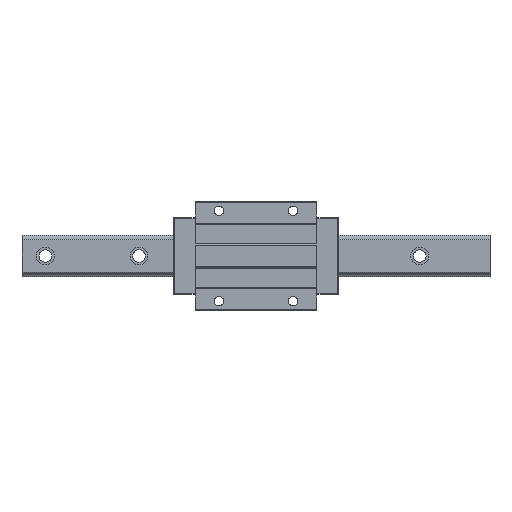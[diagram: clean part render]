
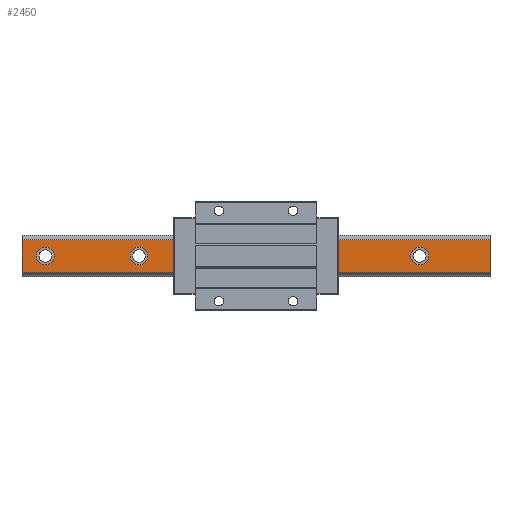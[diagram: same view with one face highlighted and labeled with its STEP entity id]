
A CAD part, top view. The second image highlights one B-rep face of the part: STEP entity #2450.
In plain terms, the highlighted planar face has unit normal (0, 0, 1).
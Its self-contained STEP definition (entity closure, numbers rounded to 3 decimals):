
#1 = AXIS2_PLACEMENT_3D ( 'NONE', #2225, #3792, #4489 ) ;
#268 = EDGE_LOOP ( 'NONE', ( #2949, #2001 ) ) ;
#290 = EDGE_CURVE ( 'NONE', #2922, #565, #311, .T. ) ;
#311 = CIRCLE ( 'NONE', #1136, 11.5 ) ;
#324 = VERTEX_POINT ( 'NONE', #6456 ) ;
#339 = DIRECTION ( 'NONE',  ( 0., 1., 0. ) ) ;
#348 = CIRCLE ( 'NONE', #4421, 11.5 ) ;
#437 = DIRECTION ( 'NONE',  ( 0., 0., 1. ) ) ;
#512 = CARTESIAN_POINT ( 'NONE',  ( -150., 0., 44. ) ) ;
#565 = VERTEX_POINT ( 'NONE', #2064 ) ;
#655 = CARTESIAN_POINT ( 'NONE',  ( 90., 0., 44. ) ) ;
#699 = VERTEX_POINT ( 'NONE', #3731 ) ;
#790 = DIRECTION ( 'NONE',  ( 1., 0., 0. ) ) ;
#820 = CARTESIAN_POINT ( 'NONE',  ( -300., -20.932, 44. ) ) ;
#918 = CIRCLE ( 'NONE', #7177, 11.5 ) ;
#924 = VERTEX_POINT ( 'NONE', #3266 ) ;
#931 = EDGE_CURVE ( 'NONE', #924, #3489, #918, .T. ) ;
#950 = DIRECTION ( 'NONE',  ( 0., 0., 1. ) ) ;
#964 = FACE_BOUND ( 'NONE', #268, .T. ) ;
#1040 = CARTESIAN_POINT ( 'NONE',  ( -138.5, 0., 44. ) ) ;
#1059 = VERTEX_POINT ( 'NONE', #1950 ) ;
#1092 = CARTESIAN_POINT ( 'NONE',  ( -30., 0., 44. ) ) ;
#1136 = AXIS2_PLACEMENT_3D ( 'NONE', #5338, #6499, #5959 ) ;
#1158 = LINE ( 'NONE', #3414, #2667 ) ;
#1314 = CIRCLE ( 'NONE', #1, 11.5 ) ;
#1329 = DIRECTION ( 'NONE',  ( 1., 0., 0. ) ) ;
#1427 = CARTESIAN_POINT ( 'NONE',  ( -281.5, 0., 44. ) ) ;
#1459 = CARTESIAN_POINT ( 'NONE',  ( 300., -20.932, 44. ) ) ;
#1485 = EDGE_LOOP ( 'NONE', ( #5288, #1877, #3428, #2173 ) ) ;
#1493 = DIRECTION ( 'NONE',  ( -1., 0., 0. ) ) ;
#1534 = VECTOR ( 'NONE', #1493, 1000. ) ;
#1607 = VECTOR ( 'NONE', #5931, 1000. ) ;
#1630 = CIRCLE ( 'NONE', #5483, 11.5 ) ;
#1674 = EDGE_CURVE ( 'NONE', #4574, #5857, #1630, .T. ) ;
#1737 = EDGE_CURVE ( 'NONE', #699, #324, #1314, .T. ) ;
#1738 = ORIENTED_EDGE ( 'NONE', *, *, #931, .F. ) ;
#1780 = EDGE_CURVE ( 'NONE', #5857, #4574, #3627, .T. ) ;
#1806 = EDGE_LOOP ( 'NONE', ( #3096, #3753 ) ) ;
#1866 = DIRECTION ( 'NONE',  ( 1., 0., 0. ) ) ;
#1872 = CARTESIAN_POINT ( 'NONE',  ( 210., 0., 44. ) ) ;
#1877 = ORIENTED_EDGE ( 'NONE', *, *, #2766, .F. ) ;
#1908 = CARTESIAN_POINT ( 'NONE',  ( 210., 0., 44. ) ) ;
#1943 = EDGE_CURVE ( 'NONE', #3489, #924, #4669, .T. ) ;
#1950 = CARTESIAN_POINT ( 'NONE',  ( 221.5, 0., 44. ) ) ;
#2001 = ORIENTED_EDGE ( 'NONE', *, *, #1674, .F. ) ;
#2064 = CARTESIAN_POINT ( 'NONE',  ( -258.5, 0., 44. ) ) ;
#2103 = VERTEX_POINT ( 'NONE', #6931 ) ;
#2120 = DIRECTION ( 'NONE',  ( 1., 0., 0. ) ) ;
#2147 = FACE_BOUND ( 'NONE', #4591, .T. ) ;
#2165 = AXIS2_PLACEMENT_3D ( 'NONE', #1092, #6023, #2120 ) ;
#2173 = ORIENTED_EDGE ( 'NONE', *, *, #3387, .T. ) ;
#2225 = CARTESIAN_POINT ( 'NONE',  ( -30., 0., 44. ) ) ;
#2277 = DIRECTION ( 'NONE',  ( 0., 0., 1. ) ) ;
#2288 = VERTEX_POINT ( 'NONE', #4423 ) ;
#2450 = ADVANCED_FACE ( 'NONE', ( #5950, #2147, #5436, #964, #4373, #6591 ), #7096, .F. ) ;
#2586 = CARTESIAN_POINT ( 'NONE',  ( 90., 0., 44. ) ) ;
#2667 = VECTOR ( 'NONE', #5627, 1000. ) ;
#2692 = EDGE_CURVE ( 'NONE', #1059, #3701, #6425, .T. ) ;
#2701 = VERTEX_POINT ( 'NONE', #4156 ) ;
#2733 = DIRECTION ( 'NONE',  ( 1., 0., 0. ) ) ;
#2766 = EDGE_CURVE ( 'NONE', #2103, #6159, #6514, .T. ) ;
#2922 = VERTEX_POINT ( 'NONE', #1427 ) ;
#2949 = ORIENTED_EDGE ( 'NONE', *, *, #1780, .F. ) ;
#2994 = CARTESIAN_POINT ( 'NONE',  ( -150., 0., 44. ) ) ;
#3076 = CARTESIAN_POINT ( 'NONE',  ( 101.5, 0., 44. ) ) ;
#3087 = AXIS2_PLACEMENT_3D ( 'NONE', #4070, #3415, #790 ) ;
#3096 = ORIENTED_EDGE ( 'NONE', *, *, #2692, .F. ) ;
#3109 = CARTESIAN_POINT ( 'NONE',  ( 300., -20.932, 44. ) ) ;
#3266 = CARTESIAN_POINT ( 'NONE',  ( 78.5, 0., 44. ) ) ;
#3276 = AXIS2_PLACEMENT_3D ( 'NONE', #2994, #6740, #1866 ) ;
#3321 = LINE ( 'NONE', #4890, #5906 ) ;
#3387 = EDGE_CURVE ( 'NONE', #2288, #2701, #1158, .T. ) ;
#3414 = CARTESIAN_POINT ( 'NONE',  ( 300., 20.932, 44. ) ) ;
#3415 = DIRECTION ( 'NONE',  ( 0., 0., 1. ) ) ;
#3428 = ORIENTED_EDGE ( 'NONE', *, *, #5957, .F. ) ;
#3489 = VERTEX_POINT ( 'NONE', #3076 ) ;
#3492 = DIRECTION ( 'NONE',  ( 1., 0., 0. ) ) ;
#3574 = DIRECTION ( 'NONE',  ( 1., 0., 0. ) ) ;
#3627 = CIRCLE ( 'NONE', #3276, 11.5 ) ;
#3648 = DIRECTION ( 'NONE',  ( 1., 0., 0. ) ) ;
#3701 = VERTEX_POINT ( 'NONE', #6525 ) ;
#3731 = CARTESIAN_POINT ( 'NONE',  ( -41.5, 0., 44. ) ) ;
#3753 = ORIENTED_EDGE ( 'NONE', *, *, #3941, .F. ) ;
#3792 = DIRECTION ( 'NONE',  ( 0., 0., 1. ) ) ;
#3941 = EDGE_CURVE ( 'NONE', #3701, #1059, #348, .T. ) ;
#4070 = CARTESIAN_POINT ( 'NONE',  ( -270., 0., 44. ) ) ;
#4156 = CARTESIAN_POINT ( 'NONE',  ( -300., 20.932, 44. ) ) ;
#4218 = AXIS2_PLACEMENT_3D ( 'NONE', #1872, #6914, #1329 ) ;
#4373 = FACE_BOUND ( 'NONE', #4768, .T. ) ;
#4421 = AXIS2_PLACEMENT_3D ( 'NONE', #1908, #6413, #3648 ) ;
#4423 = CARTESIAN_POINT ( 'NONE',  ( 300., 20.932, 44. ) ) ;
#4432 = AXIS2_PLACEMENT_3D ( 'NONE', #2586, #950, #3574 ) ;
#4447 = EDGE_CURVE ( 'NONE', #2701, #6159, #6973, .T. ) ;
#4489 = DIRECTION ( 'NONE',  ( 1., 0., 0. ) ) ;
#4574 = VERTEX_POINT ( 'NONE', #7148 ) ;
#4591 = EDGE_LOOP ( 'NONE', ( #6512, #1738 ) ) ;
#4626 = EDGE_LOOP ( 'NONE', ( #5719, #6509 ) ) ;
#4669 = CIRCLE ( 'NONE', #4432, 11.5 ) ;
#4768 = EDGE_LOOP ( 'NONE', ( #6198, #5497 ) ) ;
#4890 = CARTESIAN_POINT ( 'NONE',  ( 300., -20.932, 44. ) ) ;
#5109 = EDGE_CURVE ( 'NONE', #565, #2922, #5771, .T. ) ;
#5288 = ORIENTED_EDGE ( 'NONE', *, *, #4447, .T. ) ;
#5306 = CIRCLE ( 'NONE', #2165, 11.5 ) ;
#5326 = DIRECTION ( 'NONE',  ( 0., 0., -1. ) ) ;
#5338 = CARTESIAN_POINT ( 'NONE',  ( -270., 0., 44. ) ) ;
#5378 = AXIS2_PLACEMENT_3D ( 'NONE', #3109, #5326, #339 ) ;
#5436 = FACE_BOUND ( 'NONE', #4626, .T. ) ;
#5483 = AXIS2_PLACEMENT_3D ( 'NONE', #512, #437, #2733 ) ;
#5497 = ORIENTED_EDGE ( 'NONE', *, *, #290, .F. ) ;
#5627 = DIRECTION ( 'NONE',  ( -1., 0., 0. ) ) ;
#5719 = ORIENTED_EDGE ( 'NONE', *, *, #5852, .F. ) ;
#5771 = CIRCLE ( 'NONE', #3087, 11.5 ) ;
#5852 = EDGE_CURVE ( 'NONE', #324, #699, #5306, .T. ) ;
#5857 = VERTEX_POINT ( 'NONE', #1040 ) ;
#5906 = VECTOR ( 'NONE', #7099, 1000. ) ;
#5931 = DIRECTION ( 'NONE',  ( 0., -1., 0. ) ) ;
#5950 = FACE_BOUND ( 'NONE', #1806, .T. ) ;
#5957 = EDGE_CURVE ( 'NONE', #2288, #2103, #3321, .T. ) ;
#5959 = DIRECTION ( 'NONE',  ( 1., 0., 0. ) ) ;
#5997 = CARTESIAN_POINT ( 'NONE',  ( -300., -20.932, 44. ) ) ;
#6023 = DIRECTION ( 'NONE',  ( 0., 0., 1. ) ) ;
#6159 = VERTEX_POINT ( 'NONE', #820 ) ;
#6198 = ORIENTED_EDGE ( 'NONE', *, *, #5109, .F. ) ;
#6413 = DIRECTION ( 'NONE',  ( 0., 0., 1. ) ) ;
#6425 = CIRCLE ( 'NONE', #4218, 11.5 ) ;
#6456 = CARTESIAN_POINT ( 'NONE',  ( -18.5, 0., 44. ) ) ;
#6499 = DIRECTION ( 'NONE',  ( 0., 0., 1. ) ) ;
#6509 = ORIENTED_EDGE ( 'NONE', *, *, #1737, .F. ) ;
#6512 = ORIENTED_EDGE ( 'NONE', *, *, #1943, .F. ) ;
#6514 = LINE ( 'NONE', #1459, #1534 ) ;
#6525 = CARTESIAN_POINT ( 'NONE',  ( 198.5, 0., 44. ) ) ;
#6591 = FACE_OUTER_BOUND ( 'NONE', #1485, .T. ) ;
#6740 = DIRECTION ( 'NONE',  ( 0., 0., 1. ) ) ;
#6914 = DIRECTION ( 'NONE',  ( 0., 0., 1. ) ) ;
#6931 = CARTESIAN_POINT ( 'NONE',  ( 300., -20.932, 44. ) ) ;
#6973 = LINE ( 'NONE', #5997, #1607 ) ;
#7096 = PLANE ( 'NONE',  #5378 ) ;
#7099 = DIRECTION ( 'NONE',  ( 0., -1., 0. ) ) ;
#7148 = CARTESIAN_POINT ( 'NONE',  ( -161.5, 0., 44. ) ) ;
#7177 = AXIS2_PLACEMENT_3D ( 'NONE', #655, #2277, #3492 ) ;
